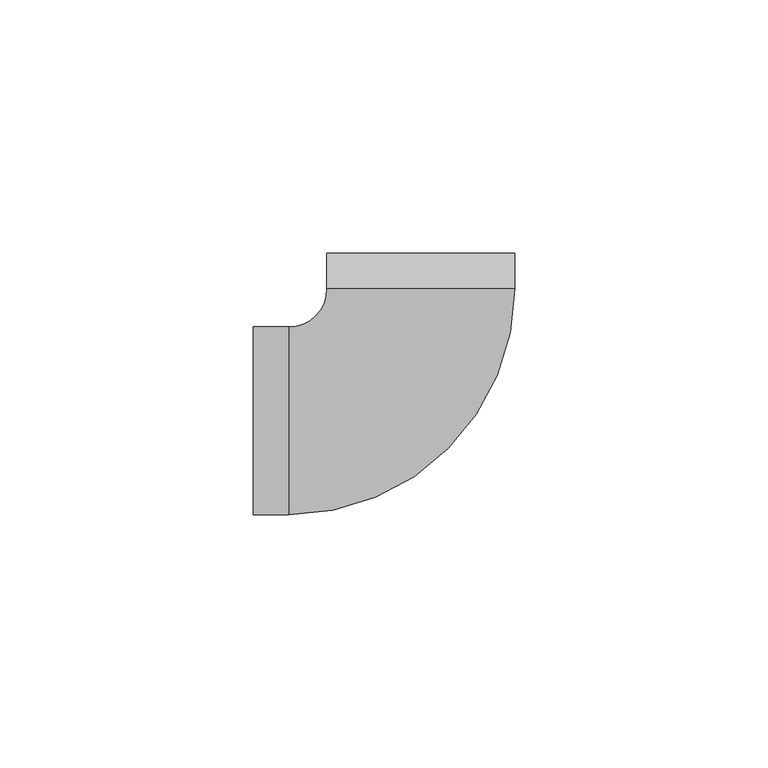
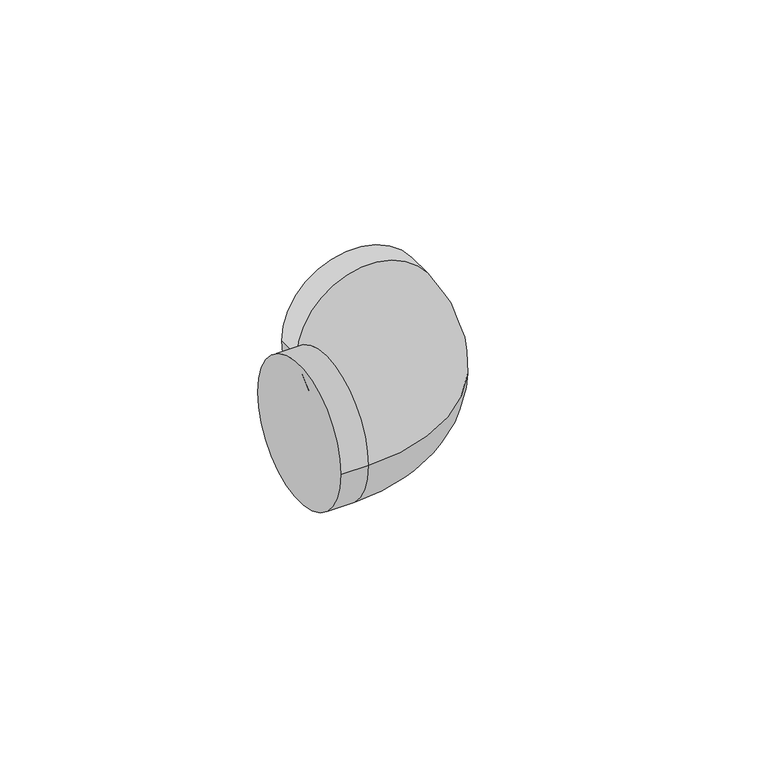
"""IFC4 building model written with IfcOpenShell, lengths in millimetres: pipe fitting geometry, PipeFitting_GirpiHTA_CPVC_Elbows_ForExpansionJoints : PipeFitting_GirpiHTA_CPVC_Elbows_ForExpansionJoints."""

from ifc_helpers import new_model, si_unit, point, frame, origin, place, context, project, spatial, circle_curve, ellipse_curve, trimmed, source, transform, mapped, element, save
from ifc_brep_helpers import plane_surface, cylinder_surface, revolved_surface, advanced_brep


def pipe_fitting_dd4062d5(model_context):
    return source(origin(), model_context, "Body", "AdvancedBrep", [
        advanced_brep(
        [(-33.0, -18.5, 0.0), (-33.0, 18.5, 0.0), (-26.0, -18.5, 0.0), (-26.0, 18.5, 0.0), (-18.5, 26.0, 0.0), (18.5, 26.0, 0.0), (18.5, 33.0, 0.0), (-18.5, 33.0, 0.0)],
        [
            (0, 1, circle_curve(frame((-33.0, 0.0, 0.0), z_axis=(-1.0, 0.0, 0.0), x_axis=(0.0, 1.0, 0.0)), 18.5)),
            (1, 0, circle_curve(frame((-33.0, 0.0, 0.0), z_axis=(-1.0, 0.0, 0.0), x_axis=(0.0, 1.0, 0.0)), 18.5)),
            (0, 2),
            (2, 3, circle_curve(frame((-26.0, 0.0, 0.0), z_axis=(-1.0, 0.0, 0.0), x_axis=(0.0, 1.0, 0.0)), 18.5)),
            (3, 1),
            (3, 2, circle_curve(frame((-26.0, 0.0, 0.0), z_axis=(-1.0, 0.0, 0.0), x_axis=(0.0, 1.0, 0.0)), 18.5)),
            (4, 3, circle_curve(frame((-26.0, 26.0, 0.0), z_axis=(0.0, 0.0, -1.0), x_axis=(0.0, -1.0, 0.0)), 7.5)),
            (2, 5, circle_curve(frame((-26.0, 26.0, 0.0), z_axis=(0.0, 0.0, 1.0), x_axis=(0.0, -1.0, 0.0)), 44.5)),
            (5, 4, circle_curve(frame((0.0, 26.0, 0.0), z_axis=(0.0, -1.0, 0.0), x_axis=(-1.0, 0.0, 0.0)), 18.5)),
            (4, 5, circle_curve(frame((0.0, 26.0, 0.0), z_axis=(0.0, -1.0, 0.0), x_axis=(-1.0, 0.0, 0.0)), 18.5)),
            (6, 7, circle_curve(frame((0.0, 33.0, 0.0), z_axis=(0.0, 1.0, 0.0), x_axis=(-1.0, 0.0, 0.0)), 18.5)),
            (7, 6, circle_curve(frame((0.0, 33.0, 0.0), z_axis=(0.0, 1.0, 0.0), x_axis=(-1.0, 0.0, 0.0)), 18.5)),
            (5, 6),
            (7, 4),
        ],
        [
            plane_surface(frame((-33.0, 0.0, 0.0), z_axis=(-1.0, 0.0, 0.0), x_axis=(0.0, 0.0, 1.0))),
            cylinder_surface(frame((-33.0, 0.0, 0.0), z_axis=(-1.0, 0.0, 0.0), x_axis=(0.0, 1.0, 0.0)), 18.5),
            revolved_surface(trimmed(ellipse_curve(frame((-26.0, 0.0, 0.0), z_axis=(-1.0, 0.0, 0.0), x_axis=(0.0, 1.0, 0.0)), 18.5, 18.5), [point((-26.0, -18.5, 0.0))], [point((-26.0, 18.5, 0.0))], True, "CARTESIAN"), (-26.0, 26.0, 0.0), (0.0, 0.0, 1.0)),
            revolved_surface(trimmed(ellipse_curve(frame((-26.0, 0.0, 0.0), z_axis=(-1.0, 0.0, 0.0), x_axis=(0.0, 1.0, 0.0)), 18.5, 18.5), [point((-26.0, 18.5, 0.0))], [point((-26.0, -18.5, 0.0))], True, "CARTESIAN"), (-26.0, 26.0, 0.0), (0.0, 0.0, 1.0)),
            plane_surface(frame((0.0, 33.0, 0.0), z_axis=(0.0, 1.0, 0.0), x_axis=(0.0, 0.0, 1.0))),
            cylinder_surface(frame((0.0, 26.0, 0.0), z_axis=(0.0, -1.0, 0.0), x_axis=(-1.0, 0.0, 0.0)), 18.5),
        ],
        [
            (0, [[1, 2]]),
            (1, [[-1, 3, 4, 5]]),
            (1, [[-2, -5, 6, -3]]),
            (2, [[7, -4, 8, 9]]),
            (3, [[-8, -6, -7, 10]]),
            (4, [[11, 12]]),
            (5, [[-9, 13, -12, 14]]),
            (5, [[-10, -14, -11, -13]]),
        ],
    ),
    ])


if __name__ == "__main__":
    model = new_model("IFC4")
    model_context = context("Model", 3, world=origin())
    ifc_project = project(units=[si_unit("LENGTHUNIT", "METRE", prefix="MILLI")], contexts=[model_context])
    site = spatial("IfcSite", under=ifc_project)
    building = spatial("IfcBuilding", under=site)
    placement = place(None, origin())
    pipe_fitting_shape = pipe_fitting_dd4062d5(model_context)
    element("IfcPipeFitting", 1, ObjectType="PipeFitting_GirpiHTA_CPVC_Elbows_ForExpansionJoints : PipeFitting_GirpiHTA_CPVC_Elbows_ForExpansionJoints", at=placement, inside=building, context=model_context, shape_type="MappedRepresentation", body=[
        mapped(pipe_fitting_shape, transform((0.0, 0.0, 0.0), x_axis=(1.0, 0.0, 0.0), y_axis=(0.0, 1.0, 0.0), z_axis=(0.0, 0.0, 1.0))),
    ])
    save(model, "model.ifc")
